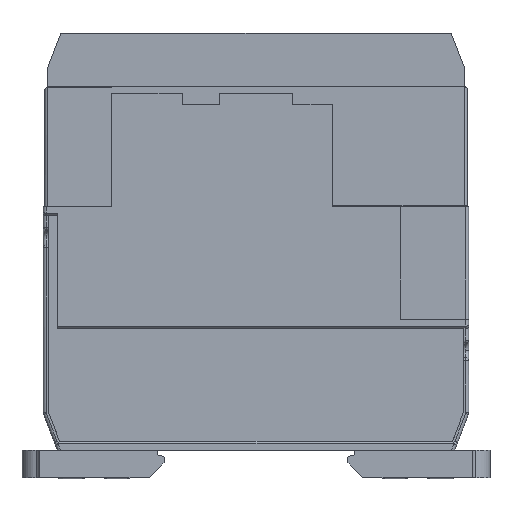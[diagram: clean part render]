
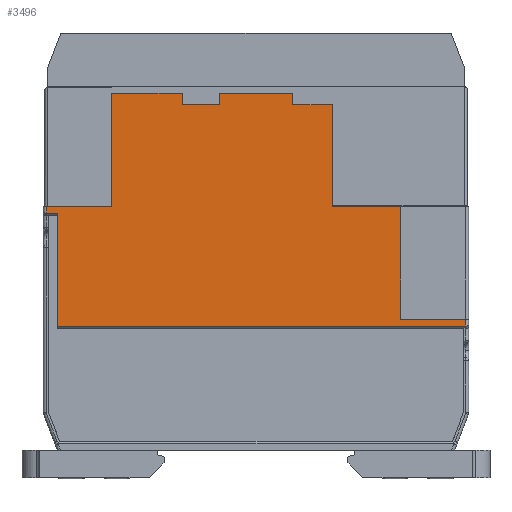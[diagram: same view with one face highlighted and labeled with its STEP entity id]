
A CAD part, left-side view. The second image highlights one B-rep face of the part: STEP entity #3496.
In plain terms, the highlighted planar face has unit normal (-1, 0, 0).
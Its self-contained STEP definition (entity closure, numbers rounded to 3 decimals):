
#72 = VERTEX_POINT ( 'NONE', #21188 ) ;
#521 = VECTOR ( 'NONE', #22020, 1000. ) ;
#525 = VECTOR ( 'NONE', #20238, 1000. ) ;
#913 = CARTESIAN_POINT ( 'NONE',  ( 0.038, 4.304, 27.115 ) ) ;
#1164 = CARTESIAN_POINT ( 'NONE',  ( 0.038, 41.6, 66.427 ) ) ;
#1518 = VECTOR ( 'NONE', #33233, 1000. ) ;
#1591 = CARTESIAN_POINT ( 'NONE',  ( 0.038, 76.88, 47.174 ) ) ;
#1841 = DIRECTION ( 'NONE',  ( 0., 1., 0. ) ) ;
#1984 = DIRECTION ( 'NONE',  ( 0., 0., 1. ) ) ;
#2101 = AXIS2_PLACEMENT_3D ( 'NONE', #9076, #10973, #21534 ) ;
#2437 = CARTESIAN_POINT ( 'NONE',  ( 0.038, 76.88, 27.115 ) ) ;
#2458 = CARTESIAN_POINT ( 'NONE',  ( 0.038, 41.6, 48.384 ) ) ;
#2941 = VERTEX_POINT ( 'NONE', #25844 ) ;
#3371 = ORIENTED_EDGE ( 'NONE', *, *, #32166, .T. ) ;
#3496 = ADVANCED_FACE ( 'NONE', ( #11640 ), #32871, .T. ) ;
#3546 = ORIENTED_EDGE ( 'NONE', *, *, #24864, .T. ) ;
#3703 = VECTOR ( 'NONE', #25506, 1000. ) ;
#3913 = ORIENTED_EDGE ( 'NONE', *, *, #4688, .T. ) ;
#3980 = ORIENTED_EDGE ( 'NONE', *, *, #14647, .F. ) ;
#4041 = LINE ( 'NONE', #9425, #5792 ) ;
#4055 = DIRECTION ( 'NONE',  ( 0., 0., 1. ) ) ;
#4338 = ORIENTED_EDGE ( 'NONE', *, *, #6955, .T. ) ;
#4561 = CARTESIAN_POINT ( 'NONE',  ( 0.038, 35.098, 68.544 ) ) ;
#4688 = EDGE_CURVE ( 'NONE', #9745, #7920, #18173, .T. ) ;
#4758 = CARTESIAN_POINT ( 'NONE',  ( 0.038, 54.704, 66.427 ) ) ;
#4802 = CARTESIAN_POINT ( 'NONE',  ( 0.038, 27.992, 66.427 ) ) ;
#4895 = VECTOR ( 'NONE', #4055, 1000. ) ;
#5064 = VECTOR ( 'NONE', #18982, 1000. ) ;
#5297 = VECTOR ( 'NONE', #11633, 1000. ) ;
#5792 = VECTOR ( 'NONE', #1984, 1000. ) ;
#6003 = ORIENTED_EDGE ( 'NONE', *, *, #27044, .T. ) ;
#6955 = EDGE_CURVE ( 'NONE', #19123, #29738, #29704, .T. ) ;
#7031 = DIRECTION ( 'NONE',  ( 0., 1., 0. ) ) ;
#7221 = ORIENTED_EDGE ( 'NONE', *, *, #9379, .T. ) ;
#7259 = LINE ( 'NONE', #17756, #14731 ) ;
#7920 = VERTEX_POINT ( 'NONE', #23749 ) ;
#8010 = DIRECTION ( 'NONE',  ( 0., 1., 0. ) ) ;
#8493 = CARTESIAN_POINT ( 'NONE',  ( 0.038, 41.6, 27.115 ) ) ;
#8683 = ORIENTED_EDGE ( 'NONE', *, *, #11982, .T. ) ;
#9076 = CARTESIAN_POINT ( 'NONE',  ( 0.038, 78.896, 27.115 ) ) ;
#9379 = EDGE_CURVE ( 'NONE', #27542, #14088, #15918, .T. ) ;
#9425 = CARTESIAN_POINT ( 'NONE',  ( 0.038, 54.704, 47.83 ) ) ;
#9481 = CARTESIAN_POINT ( 'NONE',  ( 0.038, 15.896, 28.325 ) ) ;
#9578 = CARTESIAN_POINT ( 'NONE',  ( 0.038, 10.856, 28.325 ) ) ;
#9590 = LINE ( 'NONE', #33730, #3703 ) ;
#9745 = VERTEX_POINT ( 'NONE', #18918 ) ;
#9846 = EDGE_CURVE ( 'NONE', #29738, #25016, #10456, .T. ) ;
#10293 = CARTESIAN_POINT ( 'NONE',  ( 0.038, 41.6, 66.427 ) ) ;
#10314 = LINE ( 'NONE', #18235, #17117 ) ;
#10456 = LINE ( 'NONE', #10293, #22451 ) ;
#10531 = ORIENTED_EDGE ( 'NONE', *, *, #16657, .T. ) ;
#10719 = VERTEX_POINT ( 'NONE', #18764 ) ;
#10909 = DIRECTION ( 'NONE',  ( 0., 0., -1. ) ) ;
#10914 = VERTEX_POINT ( 'NONE', #4561 ) ;
#10973 = DIRECTION ( 'NONE',  ( -1., 0., 0. ) ) ;
#11358 = ORIENTED_EDGE ( 'NONE', *, *, #22756, .T. ) ;
#11407 = CARTESIAN_POINT ( 'NONE',  ( 0.038, 67.304, 47.83 ) ) ;
#11579 = LINE ( 'NONE', #11407, #16061 ) ;
#11633 = DIRECTION ( 'NONE',  ( 0., -1., 0. ) ) ;
#11640 = FACE_OUTER_BOUND ( 'NONE', #19560, .T. ) ;
#11767 = DIRECTION ( 'NONE',  ( 0., 0., -1. ) ) ;
#11982 = EDGE_CURVE ( 'NONE', #32597, #2941, #33426, .T. ) ;
#12149 = VECTOR ( 'NONE', #8010, 1000. ) ;
#12397 = DIRECTION ( 'NONE',  ( 0., 1., 0. ) ) ;
#12932 = CARTESIAN_POINT ( 'NONE',  ( 0.038, 67.304, 68.544 ) ) ;
#13260 = ORIENTED_EDGE ( 'NONE', *, *, #9846, .T. ) ;
#13284 = LINE ( 'NONE', #29269, #22775 ) ;
#13719 = EDGE_CURVE ( 'NONE', #25016, #10719, #4041, .T. ) ;
#13813 = VERTEX_POINT ( 'NONE', #913 ) ;
#13955 = ORIENTED_EDGE ( 'NONE', *, *, #13719, .T. ) ;
#14019 = VECTOR ( 'NONE', #10909, 1000. ) ;
#14088 = VERTEX_POINT ( 'NONE', #2437 ) ;
#14610 = CARTESIAN_POINT ( 'NONE',  ( 0.038, 41.6, 68.544 ) ) ;
#14647 = EDGE_CURVE ( 'NONE', #23687, #72, #27609, .T. ) ;
#14731 = VECTOR ( 'NONE', #22666, 1000. ) ;
#15119 = CARTESIAN_POINT ( 'NONE',  ( 0.038, 4.304, 47.83 ) ) ;
#15310 = ORIENTED_EDGE ( 'NONE', *, *, #19881, .T. ) ;
#15893 = VECTOR ( 'NONE', #19075, 1000. ) ;
#15918 = LINE ( 'NONE', #18503, #14019 ) ;
#16061 = VECTOR ( 'NONE', #11767, 1000. ) ;
#16254 = EDGE_CURVE ( 'NONE', #2941, #10914, #7259, .T. ) ;
#16284 = ORIENTED_EDGE ( 'NONE', *, *, #16254, .T. ) ;
#16358 = VERTEX_POINT ( 'NONE', #32738 ) ;
#16657 = EDGE_CURVE ( 'NONE', #23687, #9745, #9590, .T. ) ;
#16727 = ORIENTED_EDGE ( 'NONE', *, *, #26737, .F. ) ;
#17011 = EDGE_CURVE ( 'NONE', #29407, #27542, #21900, .T. ) ;
#17117 = VECTOR ( 'NONE', #23647, 1000. ) ;
#17180 = CARTESIAN_POINT ( 'NONE',  ( 0.038, 27.992, 47.83 ) ) ;
#17354 = LINE ( 'NONE', #17180, #4895 ) ;
#17387 = LINE ( 'NONE', #14610, #21866 ) ;
#17756 = CARTESIAN_POINT ( 'NONE',  ( 0.038, 35.098, 47.83 ) ) ;
#18173 = LINE ( 'NONE', #2458, #12149 ) ;
#18235 = CARTESIAN_POINT ( 'NONE',  ( 0.038, 41.6, 68.544 ) ) ;
#18503 = CARTESIAN_POINT ( 'NONE',  ( 0.038, 76.88, 47.83 ) ) ;
#18614 = DIRECTION ( 'NONE',  ( 0., 0., -1. ) ) ;
#18746 = CARTESIAN_POINT ( 'NONE',  ( 0.038, 41.6, 47.174 ) ) ;
#18764 = CARTESIAN_POINT ( 'NONE',  ( 0.038, 54.704, 68.544 ) ) ;
#18918 = CARTESIAN_POINT ( 'NONE',  ( 0.038, 15.896, 48.384 ) ) ;
#18982 = DIRECTION ( 'NONE',  ( 0., -1., 0. ) ) ;
#19075 = DIRECTION ( 'NONE',  ( 0., -1., 0. ) ) ;
#19123 = VERTEX_POINT ( 'NONE', #27222 ) ;
#19190 = VECTOR ( 'NONE', #7031, 1000. ) ;
#19560 = EDGE_LOOP ( 'NONE', ( #3980, #10531, #3913, #3546, #8683, #16284, #11358, #4338, #13260, #13955, #6003, #3371, #16727, #22082, #30743, #7221, #15310, #22893 ) ) ;
#19881 = EDGE_CURVE ( 'NONE', #14088, #13813, #29821, .T. ) ;
#20238 = DIRECTION ( 'NONE',  ( 0., -1., 0. ) ) ;
#21188 = CARTESIAN_POINT ( 'NONE',  ( 0.038, 4.304, 28.325 ) ) ;
#21534 = DIRECTION ( 'NONE',  ( 0., -1., 0. ) ) ;
#21866 = VECTOR ( 'NONE', #12397, 1000. ) ;
#21900 = LINE ( 'NONE', #18746, #15893 ) ;
#22020 = DIRECTION ( 'NONE',  ( 0., 0., -1. ) ) ;
#22082 = ORIENTED_EDGE ( 'NONE', *, *, #28926, .T. ) ;
#22451 = VECTOR ( 'NONE', #1841, 1000. ) ;
#22666 = DIRECTION ( 'NONE',  ( 0., 0., 1. ) ) ;
#22756 = EDGE_CURVE ( 'NONE', #10914, #19123, #17387, .T. ) ;
#22775 = VECTOR ( 'NONE', #18614, 1000. ) ;
#22893 = ORIENTED_EDGE ( 'NONE', *, *, #25594, .T. ) ;
#23647 = DIRECTION ( 'NONE',  ( 0., 1., 0. ) ) ;
#23687 = VERTEX_POINT ( 'NONE', #9481 ) ;
#23749 = CARTESIAN_POINT ( 'NONE',  ( 0.038, 27.992, 48.384 ) ) ;
#23855 = VERTEX_POINT ( 'NONE', #24447 ) ;
#24447 = CARTESIAN_POINT ( 'NONE',  ( 0.038, 78.896, 48.384 ) ) ;
#24775 = CARTESIAN_POINT ( 'NONE',  ( 0.038, 48.102, 47.83 ) ) ;
#24864 = EDGE_CURVE ( 'NONE', #7920, #32597, #17354, .T. ) ;
#25010 = LINE ( 'NONE', #15119, #1518 ) ;
#25016 = VERTEX_POINT ( 'NONE', #4758 ) ;
#25506 = DIRECTION ( 'NONE',  ( 0., 0., 1. ) ) ;
#25594 = EDGE_CURVE ( 'NONE', #13813, #72, #25010, .T. ) ;
#25844 = CARTESIAN_POINT ( 'NONE',  ( 0.038, 35.098, 66.427 ) ) ;
#26737 = EDGE_CURVE ( 'NONE', #23855, #16358, #30214, .T. ) ;
#27044 = EDGE_CURVE ( 'NONE', #10719, #31394, #10314, .T. ) ;
#27222 = CARTESIAN_POINT ( 'NONE',  ( 0.038, 48.102, 68.544 ) ) ;
#27542 = VERTEX_POINT ( 'NONE', #1591 ) ;
#27609 = LINE ( 'NONE', #9578, #5297 ) ;
#28491 = CARTESIAN_POINT ( 'NONE',  ( 0.038, 48.102, 66.427 ) ) ;
#28926 = EDGE_CURVE ( 'NONE', #23855, #29407, #13284, .T. ) ;
#29269 = CARTESIAN_POINT ( 'NONE',  ( 0.038, 78.896, 47.83 ) ) ;
#29407 = VERTEX_POINT ( 'NONE', #31449 ) ;
#29704 = LINE ( 'NONE', #24775, #521 ) ;
#29738 = VERTEX_POINT ( 'NONE', #28491 ) ;
#29821 = LINE ( 'NONE', #8493, #5064 ) ;
#30214 = LINE ( 'NONE', #33328, #525 ) ;
#30743 = ORIENTED_EDGE ( 'NONE', *, *, #17011, .T. ) ;
#31394 = VERTEX_POINT ( 'NONE', #12932 ) ;
#31449 = CARTESIAN_POINT ( 'NONE',  ( 0.038, 78.896, 47.174 ) ) ;
#32166 = EDGE_CURVE ( 'NONE', #31394, #16358, #11579, .T. ) ;
#32597 = VERTEX_POINT ( 'NONE', #4802 ) ;
#32738 = CARTESIAN_POINT ( 'NONE',  ( 0.038, 67.304, 48.384 ) ) ;
#32871 = PLANE ( 'NONE',  #2101 ) ;
#33233 = DIRECTION ( 'NONE',  ( 0., 0., 1. ) ) ;
#33328 = CARTESIAN_POINT ( 'NONE',  ( 0.038, 67.228, 48.384 ) ) ;
#33426 = LINE ( 'NONE', #1164, #19190 ) ;
#33730 = CARTESIAN_POINT ( 'NONE',  ( 0.038, 15.896, 47.83 ) ) ;
